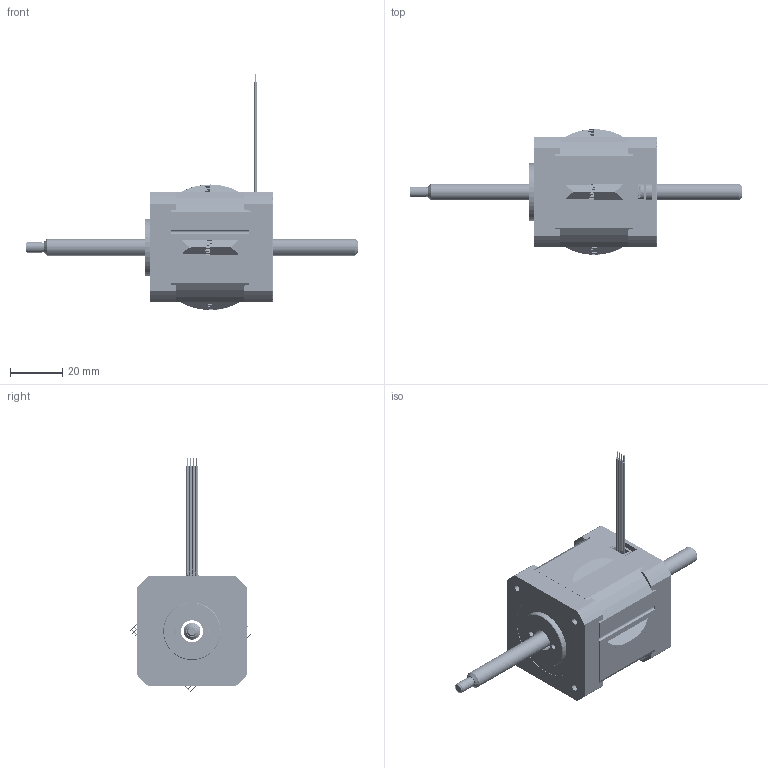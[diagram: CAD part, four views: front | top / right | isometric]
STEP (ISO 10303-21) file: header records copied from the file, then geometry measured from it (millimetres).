
FILE_DESCRIPTION((''),'2;1');
FILE_NAME('42NC4X-X-XXX-XXX_ASM_ASM','2023-06-30T',('lingling.gao'),(''),'CREO PARAMETRIC BY PTC INC, 2017300','CREO PARAMETRIC BY PTC INC, 2017300','');
FILE_SCHEMA(('CONFIG_CONTROL_DESIGN'));
Products named in the file (119): MSBR-117; MSBR-116; MSBR-115; MSBR-114; MSBR-113; MSBR-112; MSBR-111; MSBR-110; MSBR-109; MSBR-108; MSBR-107; MSBR-106; MSBR-105; MSBR-104; MSBR-103; MSBR-102; MSBR-101; MSBR-100; MSBR-99; MSBR-98; MSBR-97; MSBR-96; MSBR-95; MSBR-94; MSBR-93; MSBR-92; MSBR-91; MSBR-90; MSBR-89; MSBR-88; MSBR-87; MSBR-86; MSBR-85; MSBR-84; MSBR-83; MSBR-82; MSBR-81; MSBR-80; MSBR-79; MSBR-78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
Assembly tree (118 placements, depth 2):
  42NC4X-X-XXX-XXX_ASM_ASM
    MSBR-117
    MSBR-116
    MSBR-115
    MSBR-114
    MSBR-113
    MSBR-112
    MSBR-111
    MSBR-110
    MSBR-109
    MSBR-108
    MSBR-107
    MSBR-106
    MSBR-105
    MSBR-104
    MSBR-103
    MSBR-102
    MSBR-101
    MSBR-100
    MSBR-99
    MSBR-98
    MSBR-97
    MSBR-96
    MSBR-95
    MSBR-94
    MSBR-93
    MSBR-92
    MSBR-91
    MSBR-90
    MSBR-89
    MSBR-88
    MSBR-87
    MSBR-86
    MSBR-85
    MSBR-84
    MSBR-83
    MSBR-82
    MSBR-81
    MSBR-80
    MSBR-79
    MSBR-78
    MSBR-77
    MSBR-76
    MSBR-75
    MSBR-74
    MSBR-73
    MSBR-72
    MSBR-71
    MSBR-70
    MSBR-69
    MSBR-68
    MSBR-67
    MSBR-66
    MSBR-65
    MSBR-64
    MSBR-63
    MSBR-62
    MSBR-61
    MSBR-60
    MSBR-59
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Bounding box: 127 x 48.08 x 90.39 mm (x, y, z)
Volume: 29587.9 mm3; surface area: 369470.3 mm2
Topology: 117 solids, 146 shells, 6542 faces, 18829 edges, 12590 vertices
Faces by surface type: cylinder 3006, plane 2677, extrusion 705, bspline 96, torus 32, cone 18, sphere 8
Entity records: 286920 total; most frequent: CARTESIAN_POINT 106917, ORIENTED_EDGE 37310, DIRECTION 36126, EDGE_CURVE 18829, VERTEX_POINT 12590, AXIS2_PLACEMENT_3D 12316, VECTOR 11494, LINE 10789
